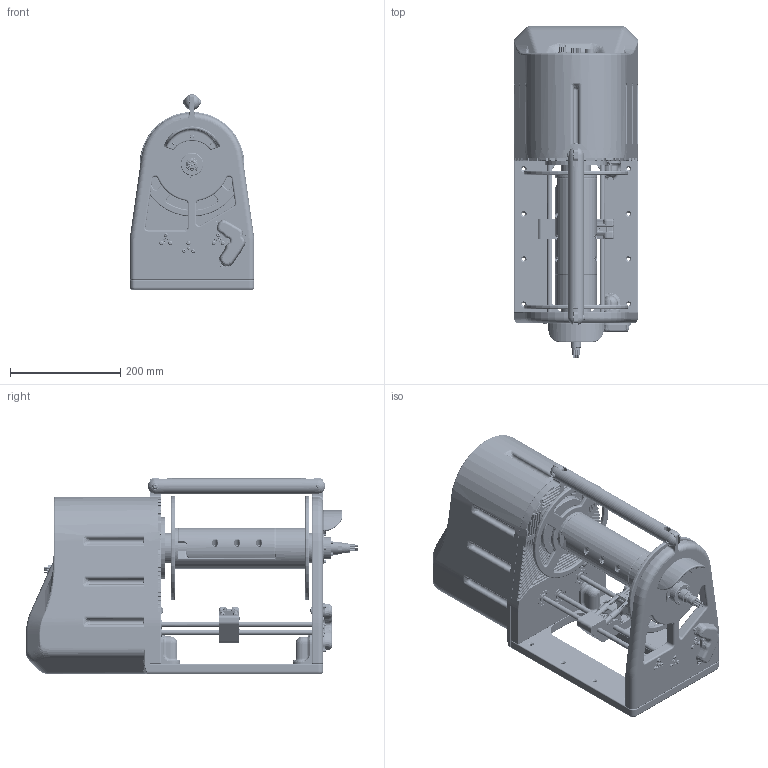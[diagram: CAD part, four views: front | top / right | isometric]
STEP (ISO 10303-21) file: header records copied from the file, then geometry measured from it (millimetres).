
FILE_DESCRIPTION(/* description */ (''),/* implementation_level */ '2;1');
FILE_NAME(/* name */ 'TMS1.3_Public.step',/* time_stamp */ '2024-08-08T12:16:56-04:00',/* author */ (''),/* organization */ (''),/* preprocessor_version */ 'ST-DEVELOPER v20',/* originating_system */ 'Autodesk Translation Framework v13.14.0.145',/* authorisation */ '');
FILE_SCHEMA (('AUTOMOTIVE_DESIGN { 1 0 10303 214 3 1 1 }'));
Products named in the file (1): TMS1.3_Public
Bounding box: 226 x 603.32 x 354.83 mm (x, y, z)
Volume: 16124104.2 mm3; surface area: 954354.3 mm2
Topology: 1 solids, 113 shells, 10135 faces, 24937 edges, 15152 vertices
Faces by surface type: cylinder 3774, plane 2091, bspline 2034, cone 1137, torus 880, sphere 219
Full cylindrical faces by diameter (mm): 1.48 x16, 1.915 x94, 1.943 x16, 2 x16, 2.075 x43, 2.35 x174, 2.4 x4, 2.5 x50, 2.529 x30, 2.6 x1, 2.9 x10, 3 x142, 3.091 x418, 3.1 x2, 3.175 x24, 3.332 x247, 3.4 x16, 3.529 x11, 3.572 x4, 3.961 x28, 4 x204, 4.3 x12, 4.5 x11, 4.508 x2, 4.7 x36, 4.763 x2, 4.902 x2, 4.975 x6, 5 x37, 5.25 x1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
Entity records: 629289 total; most frequent: CARTESIAN_POINT 405663, ORIENTED_EDGE 49612, DIRECTION 43120, EDGE_CURVE 24806, AXIS2_PLACEMENT_3D 18090, VERTEX_POINT 15152, EDGE_LOOP 10704, FACE_OUTER_BOUND 10135
